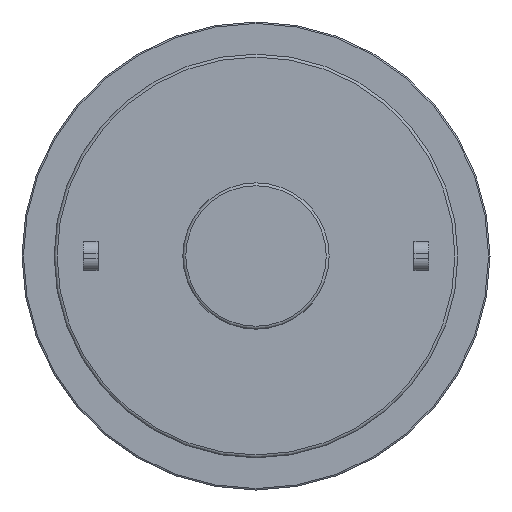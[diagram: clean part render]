
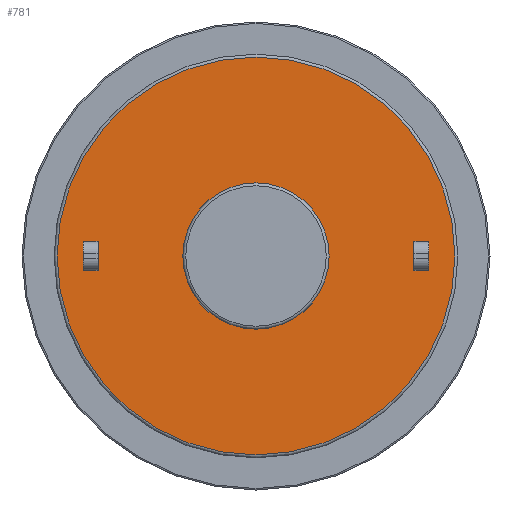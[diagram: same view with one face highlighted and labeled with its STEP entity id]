
A CAD part, left-side view. The second image highlights one B-rep face of the part: STEP entity #781.
In plain terms, the highlighted planar face has unit normal (-1, 0, 0).
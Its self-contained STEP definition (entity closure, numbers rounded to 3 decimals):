
#37=FACE_BOUND('',#244,.T.);
#38=FACE_BOUND('',#245,.T.);
#39=FACE_BOUND('',#246,.T.);
#64=LINE('',#1330,#116);
#65=LINE('',#1332,#117);
#66=LINE('',#1334,#118);
#67=LINE('',#1335,#119);
#68=LINE('',#1338,#120);
#69=LINE('',#1340,#121);
#70=LINE('',#1342,#122);
#71=LINE('',#1343,#123);
#116=VECTOR('',#1024,10.);
#117=VECTOR('',#1025,10.);
#118=VECTOR('',#1026,10.);
#119=VECTOR('',#1027,10.);
#120=VECTOR('',#1028,10.);
#121=VECTOR('',#1029,10.);
#122=VECTOR('',#1030,10.);
#123=VECTOR('',#1031,10.);
#187=FACE_OUTER_BOUND('',#243,.T.);
#243=EDGE_LOOP('',(#589));
#244=EDGE_LOOP('',(#590,#591,#592,#593));
#245=EDGE_LOOP('',(#594,#595,#596,#597));
#246=EDGE_LOOP('',(#598));
#309=CIRCLE('',#870,13.6);
#310=CIRCLE('',#871,5.);
#365=VERTEX_POINT('',#1326);
#366=VERTEX_POINT('',#1328);
#367=VERTEX_POINT('',#1329);
#368=VERTEX_POINT('',#1331);
#369=VERTEX_POINT('',#1333);
#370=VERTEX_POINT('',#1336);
#371=VERTEX_POINT('',#1337);
#372=VERTEX_POINT('',#1339);
#373=VERTEX_POINT('',#1341);
#374=VERTEX_POINT('',#1344);
#449=EDGE_CURVE('',#365,#365,#309,.T.);
#450=EDGE_CURVE('',#366,#367,#64,.T.);
#451=EDGE_CURVE('',#367,#368,#65,.T.);
#452=EDGE_CURVE('',#368,#369,#66,.T.);
#453=EDGE_CURVE('',#369,#366,#67,.T.);
#454=EDGE_CURVE('',#370,#371,#68,.T.);
#455=EDGE_CURVE('',#371,#372,#69,.T.);
#456=EDGE_CURVE('',#372,#373,#70,.T.);
#457=EDGE_CURVE('',#373,#370,#71,.T.);
#458=EDGE_CURVE('',#374,#374,#310,.T.);
#589=ORIENTED_EDGE('',*,*,#449,.F.);
#590=ORIENTED_EDGE('',*,*,#450,.T.);
#591=ORIENTED_EDGE('',*,*,#451,.T.);
#592=ORIENTED_EDGE('',*,*,#452,.T.);
#593=ORIENTED_EDGE('',*,*,#453,.T.);
#594=ORIENTED_EDGE('',*,*,#454,.T.);
#595=ORIENTED_EDGE('',*,*,#455,.T.);
#596=ORIENTED_EDGE('',*,*,#456,.T.);
#597=ORIENTED_EDGE('',*,*,#457,.T.);
#598=ORIENTED_EDGE('',*,*,#458,.T.);
#749=PLANE('',#869);
#781=ADVANCED_FACE('',(#187,#37,#38,#39),#749,.T.);
#869=AXIS2_PLACEMENT_3D('',#1325,#1020,#1021);
#870=AXIS2_PLACEMENT_3D('',#1327,#1022,#1023);
#871=AXIS2_PLACEMENT_3D('',#1345,#1032,#1033);
#1020=DIRECTION('center_axis',(-1.,0.,0.));
#1021=DIRECTION('ref_axis',(0.,0.,1.));
#1022=DIRECTION('center_axis',(1.,0.,0.));
#1023=DIRECTION('ref_axis',(0.,-1.,0.));
#1024=DIRECTION('',(0.,0.,-1.));
#1025=DIRECTION('',(0.,1.,0.));
#1026=DIRECTION('',(0.,0.,1.));
#1027=DIRECTION('',(0.,-1.,0.));
#1028=DIRECTION('',(0.,0.,1.));
#1029=DIRECTION('',(0.,-1.,0.));
#1030=DIRECTION('',(0.,0.,-1.));
#1031=DIRECTION('',(0.,1.,0.));
#1032=DIRECTION('center_axis',(1.,0.,0.));
#1033=DIRECTION('ref_axis',(0.,0.,-1.));
#1325=CARTESIAN_POINT('Origin',(2.,13.8,0.));
#1326=CARTESIAN_POINT('',(2.,0.,13.6));
#1327=CARTESIAN_POINT('Origin',(2.,0.,0.));
#1328=CARTESIAN_POINT('',(2.,-11.8,1.));
#1329=CARTESIAN_POINT('',(2.,-11.8,-1.));
#1330=CARTESIAN_POINT('',(2.,-11.8,0.5));
#1331=CARTESIAN_POINT('',(2.,-10.8,-1.));
#1332=CARTESIAN_POINT('',(2.,1.,-1.));
#1333=CARTESIAN_POINT('',(2.,-10.8,1.));
#1334=CARTESIAN_POINT('',(2.,-10.8,-0.5));
#1335=CARTESIAN_POINT('',(2.,1.5,1.));
#1336=CARTESIAN_POINT('',(2.,11.8,-1.));
#1337=CARTESIAN_POINT('',(2.,11.8,1.));
#1338=CARTESIAN_POINT('',(2.,11.8,0.5));
#1339=CARTESIAN_POINT('',(2.,10.8,1.));
#1340=CARTESIAN_POINT('',(2.,12.3,1.));
#1341=CARTESIAN_POINT('',(2.,10.8,-1.));
#1342=CARTESIAN_POINT('',(2.,10.8,-0.5));
#1343=CARTESIAN_POINT('',(2.,12.8,-1.));
#1344=CARTESIAN_POINT('',(2.,-5.,0.));
#1345=CARTESIAN_POINT('Origin',(2.,0.,0.));
